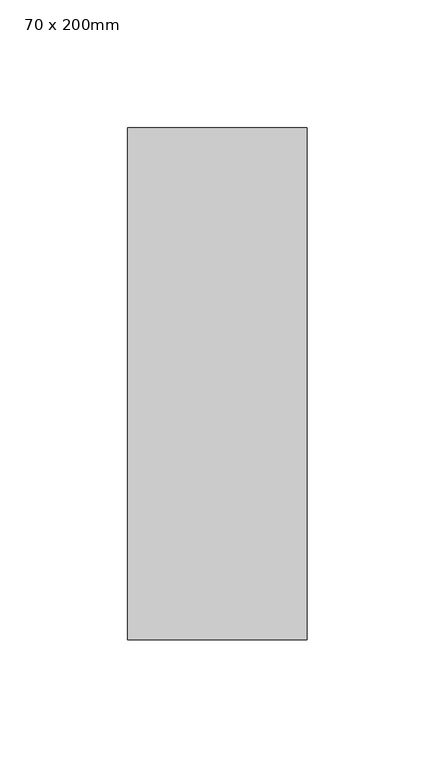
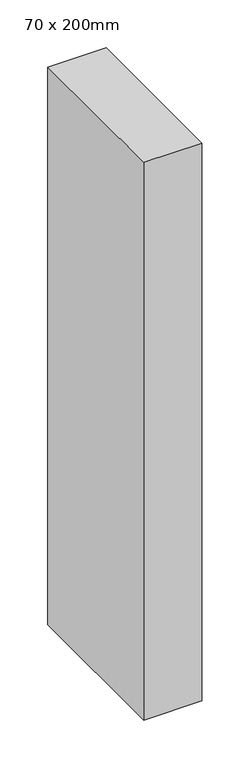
"""IFC4 building model written with IfcOpenShell, lengths in millimetres: member geometry, 矩形竖梃 : 70 x 200mm."""

from ifc_helpers import new_model, si_unit, frame, origin, place, context, project, spatial, polyline, outline, extrude, source, transform, mapped, element, save


def member_70_x_200mm_6b650310(model_context):
    return source(origin(), model_context, "Body", "SweptSolid", [
        extrude(outline(polyline([(35.0, 100.0), (35.0, -100.0), (-35.0, -100.0), (-35.0, 100.0), (35.0, 100.0)])), frame((0.0, 0.0, -710.0), z_axis=(0.0, 0.0, 1.0), x_axis=(1.0, 0.0, 0.0)), (0.0, 0.0, 1.0), 710.0),
    ])


if __name__ == "__main__":
    model = new_model("IFC4")
    model_context = context("Model", 3, world=origin())
    ifc_project = project(units=[si_unit("LENGTHUNIT", "METRE", prefix="MILLI")], contexts=[model_context])
    site = spatial("IfcSite", under=ifc_project)
    building = spatial("IfcBuilding", under=site)
    placement = place(None, origin())
    member_70_x_200mm_shape = member_70_x_200mm_6b650310(model_context)
    element("IfcMember", 1, ObjectType="矩形竖梃 : 70 x 200mm", at=placement, inside=building, context=model_context, shape_type="MappedRepresentation", body=[
        mapped(member_70_x_200mm_shape, transform((0.0, 0.0, 0.0), x_axis=(1.0, 0.0, 0.0), y_axis=(0.0, 1.0, 0.0), z_axis=(0.0, 0.0, 1.0))),
    ])
    save(model, "model.ifc")
